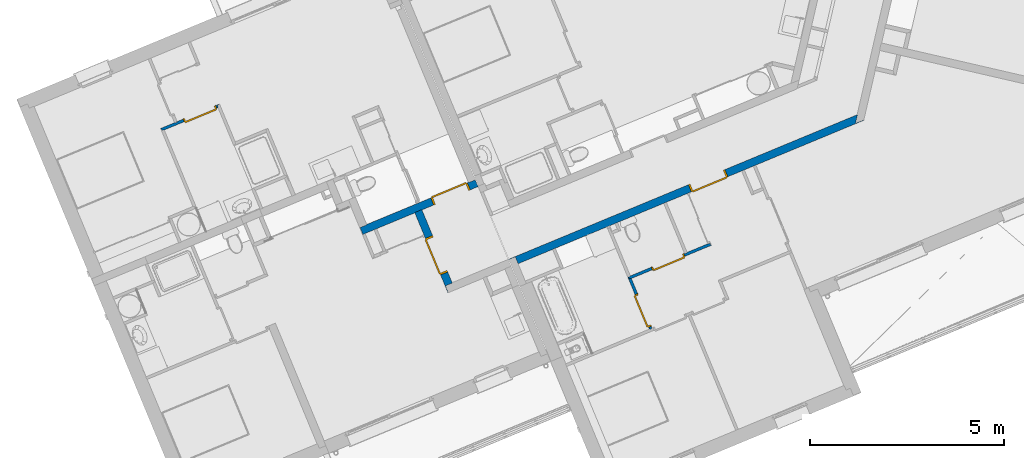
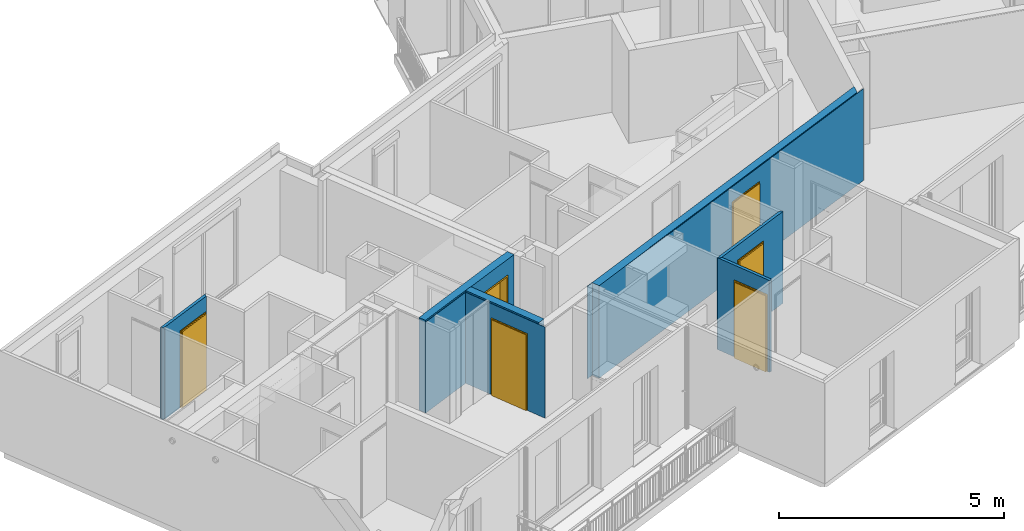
# One storey, part 9 of 90: 6 doors, 6 walls, 6 openings.
"""IFC2X3 building model written with IfcOpenShell, lengths in metres."""

from ifc_helpers import new_model, entity, si_unit, converted_unit, derived_unit, money_unit, direction, frame, origin_with_axes, place, context, subcontext, project, spatial, faceted_brep, source, transform, mapped, material, material_list, type_object, element, fill, save


model = new_model("IFC2X3")

# Units and contexts
model_context = context("Model", 3, precision=1e-05, world=origin_with_axes(), true_north=direction((0.0, 1.0)))
body_context = subcontext(model_context, "Body", "Model", "MODEL_VIEW")
ifc_project = project(units=[si_unit("LENGTHUNIT", "METRE"), si_unit("AREAUNIT", "SQUARE_METRE"), si_unit("VOLUMEUNIT", "CUBIC_METRE"), converted_unit("PLANEANGLEUNIT", "DEGREE", entity("IfcPlaneAngleMeasure", 0.0174532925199), si_unit("PLANEANGLEUNIT", "RADIAN"), dimensions=[0, 0, 0, 0, 0, 0, 0]), si_unit("SOLIDANGLEUNIT", "STERADIAN"), money_unit("EUR"), converted_unit("TIMEUNIT", "Year", entity("IfcTimeMeasure", 31556926.0), si_unit("TIMEUNIT", "SECOND"), dimensions=[0, 0, 1, 0, 0, 0, 0]), si_unit("MASSUNIT", "GRAM", prefix="KILO"), si_unit("THERMODYNAMICTEMPERATUREUNIT", "DEGREE_CELSIUS"), si_unit("LUMINOUSINTENSITYUNIT", "LUMEN"), si_unit("ENERGYUNIT", "JOULE", prefix="MEGA"), derived_unit("THERMALCONDUCTANCEUNIT", [(si_unit("POWERUNIT", "WATT"), 1), (si_unit("LENGTHUNIT", "METRE"), -1), (si_unit("THERMODYNAMICTEMPERATUREUNIT", "KELVIN"), -1)]), derived_unit("SPECIFICHEATCAPACITYUNIT", [(si_unit("ENERGYUNIT", "JOULE"), 1), (si_unit("MASSUNIT", "GRAM", prefix="KILO"), -1), (si_unit("THERMODYNAMICTEMPERATUREUNIT", "KELVIN"), -1)]), derived_unit("MASSDENSITYUNIT", [(si_unit("MASSUNIT", "GRAM", prefix="KILO"), 1), (si_unit("VOLUMEUNIT", "CUBIC_METRE"), -1)])], contexts=[model_context])

# Site, building, storey
site_placement = place(None, origin_with_axes())
site = spatial("IfcSite", under=ifc_project, at=site_placement, Name="Site", CompositionType="ELEMENT")
building_placement = place(site_placement, origin_with_axes())
building = spatial("IfcBuilding", under=site, at=building_placement, Name="Bâtiment", CompositionType="ELEMENT")
storey_placement = place(building_placement, frame((0.0, 0.0, 2.72), z_axis=(0.0, 0.0, 1.0), x_axis=(1.0, 0.0, 0.0)))
storey = spatial("IfcBuildingStorey", under=building, at=storey_placement, Name="R+1", CompositionType="ELEMENT", Elevation=2.72)

# Wall, opening, door
ifc_material_1 = material(Name="Finition int - Plaque de plâtre")
ifc_material_2 = material(Name="Isolation - Laine de roche")
ifc_material_list_1 = material_list([ifc_material_1, ifc_material_2, ifc_material_1])
wall_type_1 = type_object("IfcWallType", Name="3 - Cloison 72mm Placostil 74", PredefinedType="USERDEFINED")
wall_1_placement = place(storey_placement, frame((-19.5274599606, -22.5640409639, 0.0), z_axis=(0.0, 0.0, 1.0), x_axis=(0.923701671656, 0.383112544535, 0.0)))
wall_1 = element("IfcWall", 1, at=wall_1_placement, inside=storey, type_object=wall_type_1, material=ifc_material_list_1, Name="Cloison Placostil 72/48", ObjectType="PARTITIONING", context=body_context, shape_type="Brep", body=[
    faceted_brep([(-0.0609999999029, 0.074, 2.49), (-0.060999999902, 0.061, 2.49), (-0.060999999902, 0.061, 0.0), (-0.0609999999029, 0.074, 0.0), (-0.073999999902, 0.061, 2.49), (-0.0739999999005, 0.074, 2.49), (-0.073999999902, 0.061, 0.0), (-0.0739999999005, 0.074, 0.0)], [[[0, 1, 2, 3]], [[4, 1, 0, 5]], [[1, 4, 6, 2]], [[7, 3, 2, 6]], [[5, 0, 3, 7]], [[4, 5, 7, 6]]]),
    faceted_brep([(0.58436218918, 0.061, 0.0), (0.58436218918, 0.061, 2.08), (1.49436218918, 0.061, 2.08), (1.49436218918, 0.061, 0.0), (1.52599999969, 0.061, 0.0), (1.52599999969, 0.061, 2.49), (-0.013, 0.061, 2.49), (-0.013, 0.061, 0.0), (0.58436218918, 0.074, 0.0), (0.58436218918, 0.074, 2.08), (1.49436218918, 0.074, 2.08), (1.49436218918, 0.074, 0.0), (1.52599999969, 0.074, 0.0), (1.52599999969, 0.074, 2.49), (-0.013, 0.074, 2.49), (-0.013, 0.074, 0.0)], [[[0, 1, 2, 3, 4, 5, 6, 7]], [[1, 0, 8, 9]], [[2, 1, 9, 10]], [[3, 2, 10, 11]], [[3, 11, 12, 4]], [[5, 4, 12, 13]], [[5, 13, 14, 6]], [[14, 15, 7, 6]], [[8, 0, 7, 15]], [[9, 8, 15, 14, 13, 12, 11, 10]]]),
    faceted_brep([(2.1759999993, 0.074, 2.49), (2.17599999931, 0.061, 2.49), (2.17599999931, 0.061, 0.0), (2.1759999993, 0.074, 0.0), (1.57399999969, 0.061, 2.49), (1.57399999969, 0.074, 2.49), (1.57399999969, 0.061, 0.0), (1.57399999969, 0.074, 0.0)], [[[0, 1, 2, 3]], [[4, 1, 0, 5]], [[1, 4, 6, 2]], [[3, 2, 6, 7]], [[5, 0, 3, 7]], [[4, 5, 7, 6]]]),
    faceted_brep([(0.58436218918, 0.013, 0.0), (0.58436218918, 0.013, 2.08), (1.49436218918, 0.013, 2.08), (1.49436218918, 0.013, 0.0), (2.22399999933, 0.013, 0.0), (2.22399999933, 0.013, 2.49), (-0.0609999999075, 0.013, 2.49), (-0.0609999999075, 0.013, 0.0), (0.58436218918, 0.061, 0.0), (0.58436218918, 0.061, 2.08), (1.49436218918, 0.061, 2.08), (1.49436218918, 0.061, 0.0), (2.22399999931, 0.061, 0.0), (2.22399999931, 0.061, 2.49), (-0.060999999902, 0.061, 2.49), (-0.060999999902, 0.061, 0.0)], [[[0, 1, 2, 3, 4, 5, 6, 7]], [[1, 0, 8, 9]], [[2, 1, 9, 10]], [[3, 2, 10, 11]], [[3, 11, 12, 4]], [[5, 4, 12, 13]], [[5, 13, 14, 6]], [[14, 15, 7, 6]], [[8, 0, 7, 15]], [[9, 8, 15, 14, 13, 12, 11, 10]]]),
    faceted_brep([(0.58436218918, 0.0, 0.0), (0.58436218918, 0.0, 2.08), (1.49436218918, 0.0, 2.08), (1.49436218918, 0.0, 0.0), (2.23699999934, 0.0, 0.0), (2.23699999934, 0.0, 2.49), (-0.012999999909, 0.0, 2.49), (-0.012999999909, 0.0, 0.0), (0.58436218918, 0.013, 0.0), (0.58436218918, 0.013, 2.08), (1.49436218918, 0.013, 2.08), (1.49436218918, 0.013, 0.0), (2.23699999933, 0.013, 0.0), (2.23699999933, 0.013, 2.49), (-0.0129999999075, 0.013, 2.49), (-0.0129999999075, 0.013, 0.0)], [[[0, 1, 2, 3, 4, 5, 6, 7]], [[1, 0, 8, 9]], [[2, 1, 9, 10]], [[3, 2, 10, 11]], [[3, 11, 12, 4]], [[5, 4, 12, 13]], [[5, 13, 14, 6]], [[14, 15, 7, 6]], [[8, 0, 7, 15]], [[9, 8, 15, 14, 13, 12, 11, 10]]]),
])
opening_1_placement = place(wall_1_placement, frame((1.03936218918, 0.0, 0.0), z_axis=(0.0, 0.0, 1.0), x_axis=(1.0, 0.0, 0.0)))
opening_1 = element("IfcOpeningElement", 2, at=opening_1_placement, cuts=wall_1, Name="Porte 83x204 bois alvéolaire", context=body_context, shape_type="Brep", body=[
    faceted_brep([(-0.455, 0.074, 0.0), (0.455, 0.074, 0.0), (0.455, -0.074, 0.0), (-0.455, -0.074, 0.0), (-0.455, 0.074, 2.08), (0.455, 0.074, 2.08), (0.455, -0.074, 2.08), (-0.455, -0.074, 2.08)], [[[0, 1, 2, 3]], [[0, 4, 5, 1]], [[1, 5, 6, 2]], [[3, 2, 6, 7]], [[4, 0, 3, 7]], [[5, 4, 7, 6]]]),
])
door_style_1 = type_object("IfcDoorStyle", Name="Porte int générique 2019", ConstructionType="NOTDEFINED", OperationType="SINGLE_SWING_RIGHT", ParameterTakesPrecedence=False, Sizeable=False)
shared_shape_1 = source(origin_with_axes(), body_context, "Body", "Brep", [
    faceted_brep([(0.455, 0.0, 0.0), (0.415, 0.0, 0.0), (0.415, 0.0, 2.04), (-0.415, 0.0, 2.04), (-0.415, 0.0, 0.0), (-0.455, 0.0, 0.0), (-0.455, 0.0, 2.08), (0.455, 0.0, 2.08), (0.455, -0.074, 0.0), (0.415, -0.074, 0.0), (0.415, -0.074, 2.04), (-0.415, -0.074, 2.04), (-0.415, -0.074, 0.0), (-0.455, -0.074, 0.0), (-0.455, -0.074, 2.08), (0.455, -0.074, 2.08)], [[[0, 1, 2, 3, 4, 5, 6, 7]], [[0, 8, 9, 1]], [[1, 9, 10, 2]], [[2, 10, 11, 3]], [[3, 11, 12, 4]], [[5, 4, 12, 13]], [[14, 6, 5, 13]], [[15, 7, 6, 14]], [[8, 0, 7, 15]], [[9, 8, 15, 14, 13, 12, 11, 10]]]),
    faceted_brep([(0.465, 0.0, 0.0), (0.465, 0.01, 0.0), (0.465, 0.01, 2.09), (0.465, 0.0, 2.09), (0.435, 0.0, 0.0), (0.435, 0.01, 0.0), (0.435, 0.01, 2.06), (-0.435, 0.01, 2.06), (-0.435, 0.01, 0.0), (-0.465, 0.01, 0.0), (-0.465, 0.01, 2.09), (-0.465, 0.0, 2.09), (-0.465, 0.0, 0.0), (-0.435, 0.0, 0.0), (-0.435, 0.0, 2.06), (0.435, 0.0, 2.06)], [[[0, 1, 2, 3]], [[0, 4, 5, 1]], [[1, 5, 6, 7, 8, 9, 10, 2]], [[3, 2, 10, 11]], [[4, 0, 3, 11, 12, 13, 14, 15]], [[5, 4, 15, 6]], [[6, 15, 14, 7]], [[7, 14, 13, 8]], [[12, 9, 8, 13]], [[11, 10, 9, 12]]]),
    faceted_brep([(0.465, -0.084, 0.0), (0.465, -0.074, 0.0), (0.465, -0.074, 2.09), (0.465, -0.084, 2.09), (0.435, -0.084, 0.0), (0.435, -0.074, 0.0), (0.435, -0.074, 2.06), (-0.435, -0.074, 2.06), (-0.435, -0.074, 0.0), (-0.465, -0.074, 0.0), (-0.465, -0.074, 2.09), (-0.465, -0.084, 2.09), (-0.465, -0.084, 0.0), (-0.435, -0.084, 0.0), (-0.435, -0.084, 2.06), (0.435, -0.084, 2.06)], [[[0, 1, 2, 3]], [[0, 4, 5, 1]], [[1, 5, 6, 7, 8, 9, 10, 2]], [[3, 2, 10, 11]], [[4, 0, 3, 11, 12, 13, 14, 15]], [[5, 4, 15, 6]], [[6, 15, 14, 7]], [[7, 14, 13, 8]], [[12, 9, 8, 13]], [[11, 10, 9, 12]]]),
    faceted_brep([(0.435, 0.04, 0.0), (0.435, 0.0, 0.0), (-0.435, 0.0, 0.0), (-0.435, 0.04, 0.0), (0.435, 0.04, 2.06), (0.435, 0.0, 2.06), (-0.435, 0.0, 2.06), (-0.435, 0.04, 2.06)], [[[0, 1, 2, 3]], [[4, 5, 1, 0]], [[1, 5, 6, 2]], [[3, 2, 6, 7]], [[0, 3, 7, 4]], [[7, 6, 5, 4]]]),
])
door_1_placement = place(opening_1_placement, frame((0.415, 0.0, 0.0), z_axis=(0.0, 0.0, 1.0), x_axis=(-1.0, 0.0, 0.0)))
door_1 = element("IfcDoor", 3, at=door_1_placement, inside=storey, type_object=door_style_1, Name="Porte 83x204 bois alvéolaire", ObjectType="DOOR", OverallHeight=2.04, OverallWidth=0.83, context=body_context, shape_type="MappedRepresentation", body=[
    mapped(shared_shape_1, transform((0.415, 0.0, 0.0))),
])
fill(opening_1, door_1)

wall_2_placement = place(storey_placement, frame((-30.2305338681, -18.0864254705, 0.0), z_axis=(0.0, 0.0, 1.0), x_axis=(-0.92370167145, -0.383112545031, 0.0)))
wall_2 = element("IfcWall", 4, at=wall_2_placement, inside=storey, type_object=wall_type_1, material=ifc_material_list_1, Name="Cloison Placostil 72/48", ObjectType="PARTITIONING", context=body_context, shape_type="Brep", body=[
    faceted_brep([(0.945000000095, 0.074, 0.0), (0.945000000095, 0.074, 2.08), (0.035000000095, 0.074, 2.08), (0.035000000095, 0.074, 0.0), (2.49237075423e-10, 0.074, 0.0), (2.49237075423e-10, 0.074, 2.5), (1.5130000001, 0.074, 2.5), (1.5130000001, 0.074, 0.0), (0.945000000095, 0.061, 0.0), (0.945000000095, 0.061, 2.08), (0.035000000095, 0.061, 2.08), (0.035000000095, 0.061, 0.0), (2.43232989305e-10, 0.061, 0.0), (2.43232989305e-10, 0.061, 2.5), (1.5130000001, 0.061, 2.5), (1.5130000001, 0.061, 0.0)], [[[0, 1, 2, 3, 4, 5, 6, 7]], [[1, 0, 8, 9]], [[2, 1, 9, 10]], [[3, 2, 10, 11]], [[3, 11, 12, 4]], [[4, 12, 13, 5]], [[6, 5, 13, 14]], [[7, 6, 14, 15]], [[8, 0, 7, 15]], [[9, 8, 15, 14, 13, 12, 11, 10]]]),
    faceted_brep([(0.945000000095, 0.061, 0.0), (0.945000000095, 0.061, 2.08), (0.035000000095, 0.061, 2.08), (0.035000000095, 0.061, 0.0), (-0.0129999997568, 0.061, 0.0), (-0.0129999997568, 0.061, 2.5), (1.5610000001, 0.061, 2.5), (1.5610000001, 0.061, 0.0), (0.945000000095, 0.013, 0.0), (0.945000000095, 0.013, 2.08), (0.035000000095, 0.013, 2.08), (0.035000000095, 0.013, 0.0), (-0.0129999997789, 0.013, 0.0), (-0.0129999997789, 0.013, 2.5), (1.56100000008, 0.013, 2.5), (1.56100000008, 0.013, 0.0)], [[[0, 1, 2, 3, 4, 5, 6, 7]], [[1, 0, 8, 9]], [[2, 1, 9, 10]], [[3, 2, 10, 11]], [[3, 11, 12, 4]], [[4, 12, 13, 5]], [[6, 5, 13, 14]], [[7, 6, 14, 15]], [[8, 0, 7, 15]], [[9, 8, 15, 14, 13, 12, 11, 10]]]),
    faceted_brep([(1.57400000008, 0.013, 0.0), (1.57400000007, 0.0, 0.0), (1.17199999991, 0.0, 0.0), (1.17199999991, 0.013, 0.0), (1.57400000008, 0.013, 2.5), (1.57400000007, 0.0, 2.5), (1.17199999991, 0.0, 2.5), (1.17199999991, 0.013, 2.5)], [[[0, 1, 2, 3]], [[1, 0, 4, 5]], [[1, 5, 6, 2]], [[7, 3, 2, 6]], [[4, 0, 3, 7]], [[5, 4, 7, 6]]]),
    faceted_brep([(0.945000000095, 0.013, 0.0), (0.945000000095, 0.013, 2.08), (0.035000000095, 0.013, 2.08), (0.035000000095, 0.013, 0.0), (-0.0609999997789, 0.013, 0.0), (-0.0609999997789, 0.013, 2.5), (1.12399999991, 0.013, 2.5), (1.12399999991, 0.013, 0.0), (0.945000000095, 0.0, 0.0), (0.945000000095, 0.0, 2.08), (0.035000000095, 0.0, 2.08), (0.035000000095, 0.0, 0.0), (-0.0609999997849, 0.0, 0.0), (-0.0609999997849, 0.0, 2.5), (1.12399999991, 0.0, 2.5), (1.12399999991, 0.0, 0.0)], [[[0, 1, 2, 3, 4, 5, 6, 7]], [[1, 0, 8, 9]], [[2, 1, 9, 10]], [[3, 2, 10, 11]], [[3, 11, 12, 4]], [[4, 12, 13, 5]], [[6, 5, 13, 14]], [[7, 6, 14, 15]], [[8, 0, 7, 15]], [[9, 8, 15, 14, 13, 12, 11, 10]]]),
])
opening_2_placement = place(wall_2_placement, frame((0.490000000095, 0.0, 0.0), z_axis=(0.0, 0.0, 1.0), x_axis=(1.0, 0.0, 0.0)))
opening_2 = element("IfcOpeningElement", 5, at=opening_2_placement, cuts=wall_2, Name="Porte 83x204 bois alvéolaire", context=body_context, shape_type="Brep", body=[
    faceted_brep([(-0.455, 0.074, 0.0), (0.455, 0.074, 0.0), (0.455, -0.074, 0.0), (-0.455, -0.074, 0.0), (-0.455, 0.074, 2.08), (0.455, 0.074, 2.08), (0.455, -0.074, 2.08), (-0.455, -0.074, 2.08)], [[[0, 1, 2, 3]], [[0, 4, 5, 1]], [[1, 5, 6, 2]], [[3, 2, 6, 7]], [[4, 0, 3, 7]], [[5, 4, 7, 6]]]),
])
door_style_2 = type_object("IfcDoorStyle", Name="Porte int générique 2019", ConstructionType="NOTDEFINED", OperationType="SINGLE_SWING_LEFT", ParameterTakesPrecedence=False, Sizeable=False)
shared_shape_2 = source(origin_with_axes(), body_context, "Body", "Brep", [
    faceted_brep([(-0.455, -0.006, 0.0), (-0.455, -0.006, 2.08), (0.455, -0.006, 2.08), (0.455, -0.006, 0.0), (0.415, -0.006, 0.0), (0.415, -0.006, 2.04), (-0.415, -0.006, 2.04), (-0.415, -0.006, 0.0), (-0.455, -0.08, 0.0), (-0.455, -0.08, 2.08), (0.455, -0.08, 2.08), (0.455, -0.08, 0.0), (0.415, -0.08, 0.0), (0.415, -0.08, 2.04), (-0.415, -0.08, 2.04), (-0.415, -0.08, 0.0)], [[[0, 1, 2, 3, 4, 5, 6, 7]], [[8, 9, 1, 0]], [[9, 10, 2, 1]], [[10, 11, 3, 2]], [[3, 11, 12, 4]], [[5, 4, 12, 13]], [[6, 5, 13, 14]], [[7, 6, 14, 15]], [[0, 7, 15, 8]], [[15, 14, 13, 12, 11, 10, 9, 8]]]),
    faceted_brep([(-0.465, -0.006, 0.0), (-0.465, -0.006, 2.09), (-0.465, 0.004, 2.09), (-0.465, 0.004, 0.0), (-0.435, -0.006, 0.0), (-0.435, -0.006, 2.06), (0.435, -0.006, 2.06), (0.435, -0.006, 0.0), (0.465, -0.006, 0.0), (0.465, -0.006, 2.09), (0.465, 0.004, 2.09), (0.465, 0.004, 0.0), (0.435, 0.004, 0.0), (0.435, 0.004, 2.06), (-0.435, 0.004, 2.06), (-0.435, 0.004, 0.0)], [[[0, 1, 2, 3]], [[4, 5, 6, 7, 8, 9, 1, 0]], [[1, 9, 10, 2]], [[3, 2, 10, 11, 12, 13, 14, 15]], [[0, 3, 15, 4]], [[15, 14, 5, 4]], [[14, 13, 6, 5]], [[13, 12, 7, 6]], [[8, 7, 12, 11]], [[9, 8, 11, 10]]]),
    faceted_brep([(-0.465, -0.09, 0.0), (-0.465, -0.09, 2.09), (-0.465, -0.08, 2.09), (-0.465, -0.08, 0.0), (-0.435, -0.09, 0.0), (-0.435, -0.09, 2.06), (0.435, -0.09, 2.06), (0.435, -0.09, 0.0), (0.465, -0.09, 0.0), (0.465, -0.09, 2.09), (0.465, -0.08, 2.09), (0.465, -0.08, 0.0), (0.435, -0.08, 0.0), (0.435, -0.08, 2.06), (-0.435, -0.08, 2.06), (-0.435, -0.08, 0.0)], [[[0, 1, 2, 3]], [[4, 5, 6, 7, 8, 9, 1, 0]], [[1, 9, 10, 2]], [[3, 2, 10, 11, 12, 13, 14, 15]], [[0, 3, 15, 4]], [[15, 14, 5, 4]], [[14, 13, 6, 5]], [[13, 12, 7, 6]], [[8, 7, 12, 11]], [[9, 8, 11, 10]]]),
    faceted_brep([(-0.435, 0.034, 0.0), (0.435, 0.034, 0.0), (0.435, -0.006, 0.0), (-0.435, -0.006, 0.0), (-0.435, 0.034, 2.06), (0.435, 0.034, 2.06), (0.435, -0.006, 2.06), (-0.435, -0.006, 2.06)], [[[0, 1, 2, 3]], [[0, 4, 5, 1]], [[1, 5, 6, 2]], [[3, 2, 6, 7]], [[4, 0, 3, 7]], [[5, 4, 7, 6]]]),
])
door_2_placement = place(opening_2_placement, frame((-0.415, 0.0, 0.0), z_axis=(0.0, 0.0, 1.0), x_axis=(1.0, 0.0, 0.0)))
door_2 = element("IfcDoor", 6, at=door_2_placement, inside=storey, type_object=door_style_2, Name="Porte 83x204 bois alvéolaire", ObjectType="DOOR", OverallHeight=2.04, OverallWidth=0.83, context=body_context, shape_type="MappedRepresentation", body=[
    mapped(shared_shape_2, transform((0.415, 0.08, 0.0))),
])
fill(opening_2, door_2)

wall_3_placement = place(storey_placement, frame((-19.5274599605, -22.5640409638, 0.0), z_axis=(0.0, 0.0, 1.0), x_axis=(0.383112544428, -0.9237016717, 0.0)))
wall_3 = element("IfcWall", 7, at=wall_3_placement, inside=storey, type_object=wall_type_1, material=ifc_material_list_1, Name="Cloison Placostil 72/48", ObjectType="PARTITIONING", context=body_context, shape_type="Brep", body=[
    faceted_brep([(0.421831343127, 0.0, 2.08), (0.421831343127, 0.0, 0.0), (0.0, 0.0, 0.0), (0.0, 0.0, 2.49), (1.38390078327, 0.0, 2.49), (1.38390078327, 0.0, 0.0), (1.33183134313, 0.0, 0.0), (1.33183134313, 0.0, 2.08), (0.421831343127, -0.013, 2.08), (0.421831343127, -0.013, 0.0), (0.0, -0.013, 0.0), (0.0, -0.013, 2.49), (1.38390078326, -0.013, 2.49), (1.38390078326, -0.013, 0.0), (1.33183134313, -0.013, 0.0), (1.33183134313, -0.013, 2.08)], [[[0, 1, 2, 3, 4, 5, 6, 7]], [[1, 0, 8, 9]], [[1, 9, 10, 2]], [[3, 2, 10, 11]], [[4, 3, 11, 12]], [[12, 13, 5, 4]], [[14, 6, 5, 13]], [[7, 6, 14, 15]], [[0, 7, 15, 8]], [[15, 14, 13, 12, 11, 10, 9, 8]]]),
    faceted_brep([(0.421831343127, -0.013, 2.08), (0.421831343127, -0.013, 0.0), (-0.0129999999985, -0.013, 0.0), (-0.0129999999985, -0.013, 2.49), (1.39690078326, -0.013, 2.49), (1.39690078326, -0.013, 0.0), (1.33183134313, -0.013, 0.0), (1.33183134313, -0.013, 2.08), (0.421831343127, -0.061, 2.08), (0.421831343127, -0.061, 0.0), (-0.0129999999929, -0.061, 0.0), (-0.0129999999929, -0.061, 2.49), (1.39690078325, -0.061, 2.49), (1.39690078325, -0.061, 0.0), (1.33183134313, -0.061, 0.0), (1.33183134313, -0.061, 2.08)], [[[0, 1, 2, 3, 4, 5, 6, 7]], [[1, 0, 8, 9]], [[1, 9, 10, 2]], [[3, 2, 10, 11]], [[4, 3, 11, 12]], [[12, 13, 5, 4]], [[14, 6, 5, 13]], [[7, 6, 14, 15]], [[0, 7, 15, 8]], [[15, 14, 13, 12, 11, 10, 9, 8]]]),
    faceted_brep([(0.421831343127, -0.061, 2.08), (0.421831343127, -0.061, 0.0), (-0.0609999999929, -0.061, 0.0), (-0.0609999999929, -0.061, 2.49), (1.38390078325, -0.061, 2.49), (1.38390078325, -0.061, 0.0), (1.33183134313, -0.061, 0.0), (1.33183134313, -0.061, 2.08), (0.421831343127, -0.074, 2.08), (0.421831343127, -0.074, 0.0), (-0.0609999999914, -0.074, 0.0), (-0.0609999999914, -0.074, 2.49), (1.38390078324, -0.074, 2.49), (1.38390078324, -0.074, 0.0), (1.33183134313, -0.074, 0.0), (1.33183134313, -0.074, 2.08)], [[[0, 1, 2, 3, 4, 5, 6, 7]], [[1, 0, 8, 9]], [[1, 9, 10, 2]], [[3, 2, 10, 11]], [[4, 3, 11, 12]], [[12, 13, 5, 4]], [[14, 6, 5, 13]], [[7, 6, 14, 15]], [[0, 7, 15, 8]], [[15, 14, 13, 12, 11, 10, 9, 8]]]),
])
opening_3_placement = place(wall_3_placement, frame((0.876831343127, 0.0, 0.0), z_axis=(0.0, 0.0, 1.0), x_axis=(1.0, 0.0, 0.0)))
opening_3 = element("IfcOpeningElement", 8, at=opening_3_placement, cuts=wall_3, Name="Porte 83x204 bois alvéolaire", context=body_context, shape_type="Brep", body=[
    faceted_brep([(0.455, -0.074, 0.0), (-0.455, -0.074, 0.0), (-0.455, 0.074, 0.0), (0.455, 0.074, 0.0), (0.455, -0.074, 2.08), (-0.455, -0.074, 2.08), (-0.455, 0.074, 2.08), (0.455, 0.074, 2.08)], [[[0, 1, 2, 3]], [[0, 4, 5, 1]], [[1, 5, 6, 2]], [[3, 2, 6, 7]], [[4, 0, 3, 7]], [[5, 4, 7, 6]]]),
])
door_3_placement = place(opening_3_placement, frame((0.415, 0.0, 0.0), z_axis=(0.0, 0.0, 1.0), x_axis=(-1.0, 0.0, 0.0)))
door_3 = element("IfcDoor", 9, at=door_3_placement, inside=storey, type_object=door_style_2, Name="Porte 83x204 bois alvéolaire", ObjectType="DOOR", OverallHeight=2.04, OverallWidth=0.83, context=body_context, shape_type="MappedRepresentation", body=[
    mapped(shared_shape_2, transform((0.415, 0.08, 0.0))),
])
fill(opening_3, door_3)

ifc_material_3 = material(Name="Finition int - Enduit plâtre")
ifc_material_4 = material(Name="Béton")
ifc_material_list_2 = material_list([ifc_material_3, ifc_material_4, ifc_material_3])
wall_type_2 = type_object("IfcWallType", Name="2 - Murs Béton 18 + Enduit 2 Faces 200", PredefinedType="USERDEFINED")
wall_4_placement = place(storey_placement, frame((-26.46541406, -21.4165979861, 0.0), z_axis=(0.0, 0.0, 1.0), x_axis=(0.923701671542, 0.383112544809, 0.0)))
wall_4 = element("IfcWall", 10, at=wall_4_placement, inside=storey, type_object=wall_type_2, material=ifc_material_list_2, Name="M_Ext-008", ObjectType="SOLIDWALL", context=body_context, shape_type="Brep", body=[
    faceted_brep([(1.98199999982, 0.18, 0.0), (1.98199999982, 0.18, 2.085), (3.00199999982, 0.18, 2.085), (3.00199999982, 0.18, 0.0), (3.04200000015, 0.18, 0.0), (3.04200000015, 0.18, 2.51), (0.180000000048, 0.18, 2.51), (0.180000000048, 0.18, 0.0), (1.98199999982, 0.19, 0.0), (1.98199999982, 0.19, 2.085), (3.00199999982, 0.19, 2.085), (3.00199999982, 0.19, 0.0), (3.04200000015, 0.19, 0.0), (3.04200000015, 0.19, 2.51), (0.180000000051, 0.19, 2.51), (0.180000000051, 0.19, 0.0)], [[[0, 1, 2, 3, 4, 5, 6, 7]], [[1, 0, 8, 9]], [[2, 1, 9, 10]], [[3, 2, 10, 11]], [[3, 11, 12, 4]], [[5, 4, 12, 13]], [[13, 14, 6, 5]], [[14, 15, 7, 6]], [[8, 0, 7, 15]], [[9, 8, 15, 14, 13, 12, 11, 10]]]),
    faceted_brep([(1.98199999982, 0.0, 0.0), (1.98199999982, 0.0, 2.085), (3.00199999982, 0.0, 2.085), (3.00199999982, 0.0, 0.0), (3.22200000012, 0.0, 0.0), (3.22200000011, 0.0, 2.51), (1.4620000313, -6.22447160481e-08, 2.51), (-1.52478207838e-09, 5.93698530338e-08, 2.51), (0.0, 0.0, 0.0), (1.98199999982, 0.18, 0.0), (1.98199999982, 0.18, 2.085), (3.00199999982, 0.18, 2.085), (3.00199999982, 0.18, 0.0), (3.22200000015, 0.18, 0.0), (3.22200000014, 0.18, 2.51), (-1.06582120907e-08, 0.18, 2.51), (0.0, 0.18, 0.0)], [[[0, 1, 2, 3, 4, 5, 6, 7, 8]], [[1, 0, 9, 10]], [[2, 1, 10, 11]], [[3, 2, 11, 12]], [[3, 12, 13, 4]], [[5, 4, 13, 14]], [[14, 15, 7, 6, 5]], [[15, 16, 8, 7]], [[9, 0, 8, 16]], [[10, 9, 16, 15, 14, 13, 12, 11]]]),
    faceted_brep([(1.46200004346, -3.29422213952e-08, 2.47), (1.46200004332, -0.01, 2.47), (1.46200000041, -0.01, 0.0), (1.46200000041, 0.0, 0.0), (-0.0100000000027, -0.01, 2.47), (1.06286606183e-08, 8.86723476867e-08, 2.47), (-0.01, 0.0, 2.47), (-0.0100000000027, -0.01, 0.0), (-0.01, 0.0, 0.0)], [[[0, 1, 2, 3]], [[4, 1, 0, 5, 6]], [[1, 4, 7, 2]], [[8, 3, 2, 7]], [[5, 0, 3, 8, 6]], [[4, 6, 8, 7]]]),
    faceted_brep([(1.98199999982, -0.01, 0.0), (1.98199999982, -0.01, 2.085), (3.00199999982, -0.01, 2.085), (3.00199999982, -0.01, 0.0), (3.22200000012, -0.01, 0.0), (3.22200000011, -0.01, 2.51), (1.64200000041, -0.01, 2.51), (1.64200000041, -0.01, 0.0), (1.98199999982, 0.0, 0.0), (1.98199999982, 0.0, 2.085), (3.00199999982, 0.0, 2.085), (3.00199999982, 0.0, 0.0), (3.22200000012, 0.0, 0.0), (3.22200000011, 0.0, 2.51), (1.64200000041, 0.0, 2.51), (1.64200000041, 0.0, 0.0)], [[[0, 1, 2, 3, 4, 5, 6, 7]], [[1, 0, 8, 9]], [[2, 1, 9, 10]], [[3, 2, 10, 11]], [[3, 11, 12, 4]], [[5, 4, 12, 13]], [[5, 13, 14, 6]], [[14, 15, 7, 6]], [[8, 0, 7, 15]], [[9, 8, 15, 14, 13, 12, 11, 10]]]),
])
opening_4_placement = place(wall_4_placement, frame((2.49199999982, 0.0, 0.0), z_axis=(0.0, 0.0, 1.0), x_axis=(1.0, 0.0, 0.0)))
opening_4 = element("IfcOpeningElement", 11, at=opening_4_placement, cuts=wall_4, Name="Porte 93x204 bois blindée", context=body_context, shape_type="Brep", body=[
    faceted_brep([(0.51, -0.2, 0.0), (-0.51, -0.2, 0.0), (-0.51, 0.2, 0.0), (0.51, 0.2, 0.0), (0.51, -0.2, 2.085), (-0.51, -0.2, 2.085), (-0.51, 0.2, 2.085), (0.51, 0.2, 2.085)], [[[0, 1, 2, 3]], [[0, 4, 5, 1]], [[1, 5, 6, 2]], [[3, 2, 6, 7]], [[4, 0, 3, 7]], [[5, 4, 7, 6]]]),
])
door_style_3 = type_object("IfcDoorStyle", Name="Porte int générique 2019", ConstructionType="NOTDEFINED", OperationType="SINGLE_SWING_RIGHT", ParameterTakesPrecedence=False, Sizeable=False)
shared_shape_3 = source(origin_with_axes(), body_context, "Body", "Brep", [
    faceted_brep([(0.51, 0.0, 0.0), (0.48, 0.0, 0.0), (0.48, 0.0, 2.055), (-0.48, 0.0, 2.055), (-0.48, 0.0, 0.0), (-0.51, 0.0, 0.0), (-0.51, 0.0, 2.085), (0.51, 0.0, 2.085), (0.51, -0.2, 0.0), (0.465, -0.2, 0.0), (0.465, -0.015, 0.0), (0.48, -0.015, 0.0), (0.48, -0.015, 2.055), (-0.48, -0.015, 2.055), (-0.48, -0.015, 0.0), (-0.465, -0.015, 0.0), (-0.465, -0.2, 0.0), (-0.51, -0.2, 0.0), (-0.51, -0.2, 2.085), (0.51, -0.2, 2.085), (-0.465, -0.2, 2.04), (0.465, -0.2, 2.04), (0.465, -0.015, 2.04), (-0.465, -0.015, 2.04)], [[[0, 1, 2, 3, 4, 5, 6, 7]], [[0, 8, 9, 10, 11, 1]], [[1, 11, 12, 2]], [[2, 12, 13, 3]], [[3, 13, 14, 4]], [[5, 4, 14, 15, 16, 17]], [[18, 6, 5, 17]], [[19, 7, 6, 18]], [[8, 0, 7, 19]], [[9, 8, 19, 18, 17, 16, 20, 21]], [[10, 9, 21, 22]], [[11, 10, 22, 23, 15, 14, 13, 12]], [[23, 20, 16, 15]], [[22, 21, 20, 23]]]),
    faceted_brep([(0.48, 0.025, 0.0), (0.48, -0.015, 0.0), (-0.48, -0.015, 0.0), (-0.48, 0.025, 0.0), (0.48, 0.025, 2.055), (0.48, -0.015, 2.055), (-0.48, -0.015, 2.055), (-0.48, 0.025, 2.055)], [[[0, 1, 2, 3]], [[4, 5, 1, 0]], [[1, 5, 6, 2]], [[3, 2, 6, 7]], [[0, 3, 7, 4]], [[7, 6, 5, 4]]]),
])
door_4_placement = place(opening_4_placement, frame((-0.465, 0.0, 0.0), z_axis=(0.0, 0.0, 1.0), x_axis=(1.0, 0.0, 0.0)))
door_4 = element("IfcDoor", 12, at=door_4_placement, inside=storey, type_object=door_style_3, Name="Porte 93x204 bois blindée", ObjectType="DOOR", OverallHeight=2.04, OverallWidth=0.93, context=body_context, shape_type="MappedRepresentation", body=[
    mapped(shared_shape_3, transform((0.465, 0.19, 0.0))),
])
fill(opening_4, door_4)

wall_5_placement = place(storey_placement, frame((-24.9486959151, -20.7875271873, 0.0), z_axis=(0.0, 0.0, 1.0), x_axis=(0.383112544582, -0.923701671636, 0.0)))
wall_5 = element("IfcWall", 13, at=wall_5_placement, inside=storey, type_object=wall_type_2, material=ifc_material_list_2, Name="M_Ext-008", ObjectType="SOLIDWALL", context=body_context, shape_type="Brep", body=[
    faceted_brep([(0.72399999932, 0.01, 2.085), (0.72399999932, 0.01, 0.0), (0.0100000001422, 0.01, 0.0), (0.0100000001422, 0.01, 2.51), (2.04391225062, 0.01, 2.51), (2.04391225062, 0.01, 0.0), (1.74399999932, 0.01, 0.0), (1.74399999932, 0.01, 2.085), (0.72399999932, 0.0, 2.085), (0.72399999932, 0.0, 0.0), (0.0100000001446, 0.0, 0.0), (0.0100000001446, 0.0, 2.51), (2.04391225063, 0.0, 2.51), (2.04391225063, 0.0, 0.0), (1.74399999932, 0.0, 0.0), (1.74399999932, 0.0, 2.085)], [[[0, 1, 2, 3, 4, 5, 6, 7]], [[1, 0, 8, 9]], [[1, 9, 10, 2]], [[11, 3, 2, 10]], [[4, 3, 11, 12]], [[12, 13, 5, 4]], [[14, 6, 5, 13]], [[7, 6, 14, 15]], [[0, 7, 15, 8]], [[15, 14, 13, 12, 11, 10, 9, 8]]]),
    faceted_brep([(0.72399999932, 0.0, 2.085), (0.72399999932, 0.0, 0.0), (1.44632750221e-10, 0.0, 0.0), (1.44632750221e-10, 0.0, 2.51), (2.05391225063, 0.0, 2.51), (2.05391225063, 0.0, 0.0), (1.74399999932, 0.0, 0.0), (1.74399999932, 0.0, 2.085), (0.72399999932, -0.18, 2.085), (0.72399999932, -0.18, 0.0), (1.889102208e-10, -0.18, 0.0), (1.889102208e-10, -0.18, 2.51), (2.05391225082, -0.18, 2.51), (2.05391225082, -0.18, 0.0), (1.74399999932, -0.18, 0.0), (1.74399999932, -0.18, 2.085)], [[[0, 1, 2, 3, 4, 5, 6, 7]], [[1, 0, 8, 9]], [[1, 9, 10, 2]], [[11, 3, 2, 10]], [[4, 3, 11, 12]], [[12, 13, 5, 4]], [[14, 6, 5, 13]], [[7, 6, 14, 15]], [[0, 7, 15, 8]], [[15, 14, 13, 12, 11, 10, 9, 8]]]),
    faceted_brep([(0.72399999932, -0.17999995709, 2.085), (0.72399999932, -0.18, 0.0), (0.0100000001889, -0.18, 0.0), (0.0100000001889, -0.17999995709, 2.47), (2.23391222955, -0.179999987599, 2.47), (2.23391225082, -0.18, 0.0), (1.74399999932, -0.18, 0.0), (1.74399999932, -0.17999995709, 2.085), (0.72399999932, -0.19, 2.085), (0.72399999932, -0.19, 0.0), (0.0100000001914, -0.19, 0.0), (0.0100000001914, -0.19, 2.47), (2.23391225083, -0.19, 2.47), (2.23391225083, -0.19, 0.0), (1.74399999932, -0.19, 0.0), (1.74399999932, -0.19, 2.085)], [[[0, 1, 2, 3, 4, 5, 6, 7]], [[1, 0, 8, 9]], [[1, 9, 10, 2]], [[3, 2, 10, 11]], [[4, 3, 11, 12]], [[12, 13, 5, 4]], [[14, 6, 5, 13]], [[7, 6, 14, 15]], [[0, 7, 15, 8]], [[15, 14, 13, 12, 11, 10, 9, 8]]]),
])
opening_5_placement = place(wall_5_placement, frame((1.23399999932, 0.0, 0.0), z_axis=(0.0, 0.0, 1.0), x_axis=(1.0, 0.0, 0.0)))
opening_5 = element("IfcOpeningElement", 14, at=opening_5_placement, cuts=wall_5, Name="Porte 93x204 bois blindée", context=body_context, shape_type="Brep", body=[
    faceted_brep([(-0.51, 0.2, 0.0), (0.51, 0.2, 0.0), (0.51, -0.2, 0.0), (-0.51, -0.2, 0.0), (-0.51, 0.2, 2.085), (0.51, 0.2, 2.085), (0.51, -0.2, 2.085), (-0.51, -0.2, 2.085)], [[[0, 1, 2, 3]], [[0, 4, 5, 1]], [[1, 5, 6, 2]], [[3, 2, 6, 7]], [[4, 0, 3, 7]], [[5, 4, 7, 6]]]),
])
door_5_placement = place(opening_5_placement, frame((0.465, 0.0, 0.0), z_axis=(0.0, 0.0, 1.0), x_axis=(-1.0, 0.0, 0.0)))
door_5 = element("IfcDoor", 15, at=door_5_placement, inside=storey, type_object=door_style_3, Name="Porte 93x204 bois blindée", ObjectType="DOOR", OverallHeight=2.04, OverallWidth=0.93, context=body_context, shape_type="MappedRepresentation", body=[
    mapped(shared_shape_3, transform((0.465, 0.19, 0.0))),
])
fill(opening_5, door_5)

wall_6_placement = place(storey_placement, frame((-22.6931307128, -22.0755804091, 0.0), z_axis=(0.0, 0.0, 1.0), x_axis=(0.923701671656, 0.383112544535, 0.0)))
wall_6 = element("IfcWall", 16, at=wall_6_placement, inside=storey, type_object=wall_type_2, material=ifc_material_list_2, Name="M_Ext-008", ObjectType="SOLIDWALL", context=body_context, shape_type="Brep", body=[
    faceted_brep([(5.02399999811, 0.0, 0.0), (5.02399999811, 0.0, 2.085), (6.04399999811, 0.0, 2.085), (6.04399999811, 0.0, 0.0), (9.73158307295, 0.0, 0.0), (9.73158307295, 0.0, 2.51), (0.0, 0.0, 2.51), (0.0, 0.0, 0.0), (5.02399999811, 0.01, 0.0), (5.02399999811, 0.01, 2.085), (6.04399999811, 0.01, 2.085), (6.04399999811, 0.01, 0.0), (9.73872185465, 0.01, 0.0), (9.73872185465, 0.01, 2.51), (0.0, 0.01, 2.51), (0.0, 0.01, 0.0)], [[[0, 1, 2, 3, 4, 5, 6, 7]], [[1, 0, 8, 9]], [[2, 1, 9, 10]], [[3, 2, 10, 11]], [[3, 11, 12, 4]], [[5, 4, 12, 13]], [[13, 14, 6, 5]], [[6, 14, 15, 7]], [[8, 0, 7, 15]], [[9, 8, 15, 14, 13, 12, 11, 10]]]),
    faceted_brep([(5.02399999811, -0.18, 0.0), (5.02399999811, -0.18, 2.085), (6.04399999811, -0.18, 2.085), (6.04399999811, -0.18, 0.0), (9.61537167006, -0.18, 0.0), (9.61537167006, -0.18, 2.51), (0.18, -0.18, 2.51), (0.18, -0.18, 0.0), (5.02399999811, 0.0, 0.0), (5.02399999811, 0.0, 2.085), (6.04399999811, 0.0, 2.085), (6.04399999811, 0.0, 0.0), (9.74386974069, 0.0, 0.0), (9.74386974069, 0.0, 2.51), (0.18, 0.0, 2.51), (0.18, 0.0, 0.0)], [[[0, 1, 2, 3, 4, 5, 6, 7]], [[1, 0, 8, 9]], [[2, 1, 9, 10]], [[3, 2, 10, 11]], [[3, 11, 12, 4]], [[5, 4, 12, 13]], [[13, 14, 6, 5]], [[6, 14, 15, 7]], [[8, 0, 7, 15]], [[9, 8, 15, 14, 13, 12, 11, 10]]]),
    faceted_brep([(5.02399999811, -0.19, 0.0), (5.02399999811, -0.19, 2.085), (6.04399999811, -0.19, 2.085), (6.04399999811, -0.19, 0.0), (9.8293929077, -0.19, 0.0), (9.8293929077, -0.19, 2.49), (2.01000000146, -0.19, 2.49), (2.01000000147, -0.19, 2.51), (0.18, -0.19, 2.51), (0.18, -0.19, 0.0), (5.02399999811, -0.18, 0.0), (5.02399999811, -0.18, 2.085), (6.04399999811, -0.18, 2.085), (6.04399999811, -0.18, 0.0), (9.8365316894, -0.18, 0.0), (9.8365316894, -0.18, 2.49), (2.01000000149, -0.18, 2.49), (2.01000000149, -0.18, 2.51), (0.18, -0.18, 2.51), (0.18, -0.18, 0.0)], [[[0, 1, 2, 3, 4, 5, 6, 7, 8, 9]], [[1, 0, 10, 11]], [[2, 1, 11, 12]], [[3, 2, 12, 13]], [[3, 13, 14, 4]], [[5, 4, 14, 15]], [[15, 16, 6, 5]], [[7, 6, 16, 17]], [[17, 18, 8, 7]], [[8, 18, 19, 9]], [[10, 0, 9, 19]], [[11, 10, 19, 18, 17, 16, 15, 14, 13, 12]]]),
])
opening_6_placement = place(wall_6_placement, frame((5.53399999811, 0.0, 0.0), z_axis=(0.0, 0.0, 1.0), x_axis=(1.0, 0.0, 0.0)))
opening_6 = element("IfcOpeningElement", 17, at=opening_6_placement, cuts=wall_6, Name="Porte 93x204 bois blindée", context=body_context, shape_type="Brep", body=[
    faceted_brep([(-0.51, 0.2, 0.0), (0.51, 0.2, 0.0), (0.51, -0.2, 0.0), (-0.51, -0.2, 0.0), (-0.51, 0.2, 2.085), (0.51, 0.2, 2.085), (0.51, -0.2, 2.085), (-0.51, -0.2, 2.085)], [[[0, 1, 2, 3]], [[0, 4, 5, 1]], [[1, 5, 6, 2]], [[3, 2, 6, 7]], [[4, 0, 3, 7]], [[5, 4, 7, 6]]]),
])
door_6_placement = place(opening_6_placement, frame((0.465, 0.0, 0.0), z_axis=(0.0, 0.0, 1.0), x_axis=(-1.0, 0.0, 0.0)))
door_6 = element("IfcDoor", 18, at=door_6_placement, inside=storey, type_object=door_style_3, Name="Porte 93x204 bois blindée", ObjectType="DOOR", OverallHeight=2.04, OverallWidth=0.93, context=body_context, shape_type="MappedRepresentation", body=[
    mapped(shared_shape_3, transform((0.465, 0.19, 0.0))),
])
fill(opening_6, door_6)

save(model, "model.ifc")
